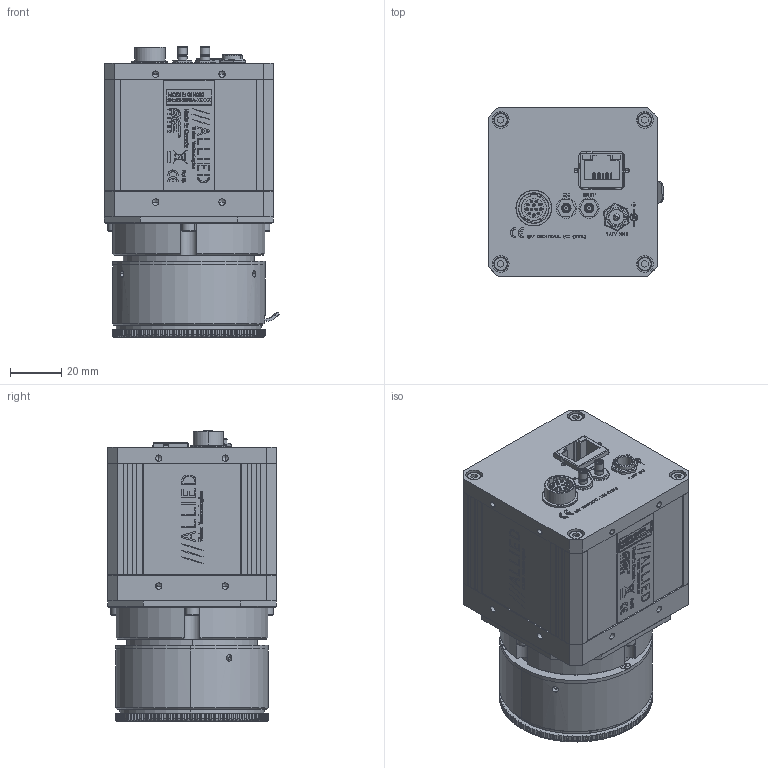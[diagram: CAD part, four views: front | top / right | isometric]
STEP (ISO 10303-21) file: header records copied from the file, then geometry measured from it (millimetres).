
FILE_DESCRIPTION (( 'STEP AP214' ), '1' );
FILE_NAME ('GE4000.STEP', '2013-07-31T22:07:54', ( '' ), ( '' ), 'SwSTEP 2.0', 'SolidWorks 2013', '' );
FILE_SCHEMA (( 'AUTOMOTIVE_DESIGN' ));
Length unit declared in the file: millimetre
Products named in the file (47): 140016-PEM KFS2-M2; 140034-SWITCHCRAFT P10149 WITH WIRE; 100114A-FMOUNT FRONT ASSY_REV B; 140017-SCREW PAN M2x4 SS; 140034-SWITCHCRAFT P10149; 110113A-FMOUNT ADAPTER PLATE; 220110-KODAK KAI-11002 MONO; 270006-JUMPER WIRE 18MM LONG; 140035-NIKON 54341 TAB; KODAK KAI-11002 WINDOW; 260010-HIROSE HR10A-10R-12SB; 140035-NIKON 54341 MAIN RING; KODAK KAI-11002 BODY; 100000AA-CV SMB GROUNDING ASSEMBLY; 140033-SCREW SET M3x3 SS; 110062AA-CCD GASKET GE LARGE FORMAT; 140001-AMPHENOL 903-10409-1; 140035-NIKON 54341 SPRING; 140039-SCREW SOCKET HEAD CAP M3x6 SS BLACK; 270006-JUMPER WIRE MODIFIED; 140035-NIKON 54341 TENSION RING; 260010-HIROSE HR10A-10R-12SB WASHER; 110112A-TEFLON INSERT 0.125IN DIA 0.57IN LENGTH; 740031B-GE SERIES LABEL; 140002-KEYSTONE 349; 140058-SCREW SOCKET HEAD CAP M3x10 SS BLACK; 260009-AMPHENOL 903-406J-51R; 140036 NIKON BF-1A FMOUNT CAP; 260010-HIROSE HR10A-10R-12SB NUT; 140068-SCREW FLAT HEAD M2x4 SS; 110060AB-FMOUNT BASE GE LARGE FORMAT; 140000-AMPHENOL 903-10408-1; 110052A-FMOUNT ADAPTER; 200031B-A GE INTERFACE PCB ASSY; 140035-NIKON 54341 SCREW; GE4000; 260029 BELFUSE 0826-1C1T-23; 100117AA CAMERA BACK ASSY GE LARGE FORMAT - ASSEMBLED; 110057B COVER GE LARGE FORMAT WITH LOGO_Finished; 100116A-CAMERA BACKPLATE ASSY GE LARGE FORMAT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
Assembly tree (76 placements, depth 5):
  GE4000
    110060AB-FMOUNT BASE GE LARGE FORMAT
    140058-SCREW SOCKET HEAD CAP M3x10 SS BLACK  x8
    740031B-GE SERIES LABEL
    140039-SCREW SOCKET HEAD CAP M3x6 SS BLACK  x4
    100118AA GE4000M FRONT ASSY
      110062AA-CCD GASKET GE LARGE FORMAT
      220110-KODAK KAI-11002 MONO
        KODAK KAI-11002 BODY
        KODAK KAI-11002 WINDOW
      140017-SCREW PAN M2x4 SS  x4
      200060AA GE4000 SENSOR PCB ASSY
        140016-PEM KFS2-M2  x4
      110059AB FRONTPLATE GE LARGE FORMAT
    740065AA-GE4000M LABEL PRINT
    110057B COVER GE LARGE FORMAT WITH LOGO_Finished
    100117AA CAMERA BACK ASSY GE LARGE FORMAT - ASSEMBLED
      200031B-A GE INTERFACE PCB ASSY
        260029 BELFUSE 0826-1C1T-23
      100116A-CAMERA BACKPLATE ASSY GE LARGE FORMAT
        140000-AMPHENOL 903-10408-1  x2
        260010-HIROSE HR10A-10R-12SB NUT
        260009-AMPHENOL 903-406J-51R  x2
        140002-KEYSTONE 349  x4
        260010-HIROSE HR10A-10R-12SB WASHER
        100000AA-CV SMB GROUNDING ASSEMBLY  x2
          270006-JUMPER WIRE MODIFIED
          140001-AMPHENOL 903-10409-1
        260010-HIROSE HR10A-10R-12SB
        140034-SWITCHCRAFT P10149 WITH WIRE
          270006-JUMPER WIRE 18MM LONG
          140034-SWITCHCRAFT P10149
        260014-SWITCHCRAFT PC712A
        260014-SWITCHCRAFT PC712A NUT
        110058A BACKPLATE GE LARGE FORMAT
    100114A-FMOUNT FRONT ASSY_REV B
      140035-NIKON 54341 SCREW  x3
      110052A-FMOUNT ADAPTER
      140068-SCREW FLAT HEAD M2x4 SS  x3
      140036 NIKON BF-1A FMOUNT CAP
      110112A-TEFLON INSERT 0.125IN DIA 0.57IN LENGTH  x3
      140035-NIKON 54341 TENSION RING
      140035-NIKON 54341 SPRING
      140033-SCREW SET M3x3 SS  x3
      140035-NIKON 54341 MAIN RING
      140035-NIKON 54341 TAB
      110113A-FMOUNT ADAPTER PLATE
Bounding box: 68.67 x 66.16 x 113.7 mm (x, y, z)
Volume: 140671.2 mm3; surface area: 137518.5 mm2
Topology: 110 solids, 110 shells, 5597 faces, 14666 edges, 9598 vertices
Faces by surface type: plane 3422, cylinder 1031, bspline 935, cone 209
Entity records: 235629 total; most frequent: CARTESIAN_POINT 68930, ORIENTED_EDGE 24854, DIRECTION 20070, EDGE_CURVE 12427, VECTOR 8708, LINE 8708, VERTEX_POINT 8186, AXIS2_PLACEMENT_3D 5681
